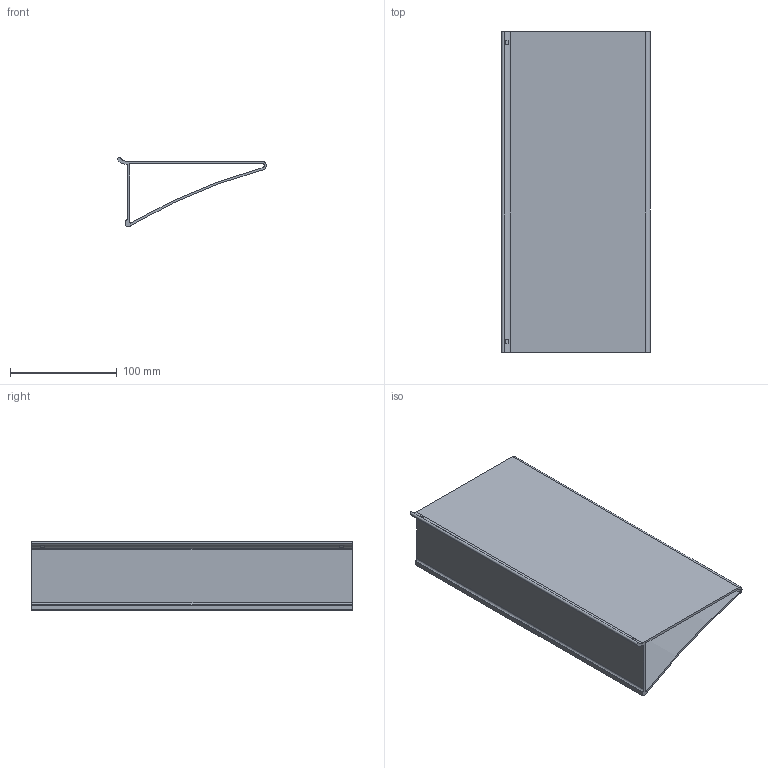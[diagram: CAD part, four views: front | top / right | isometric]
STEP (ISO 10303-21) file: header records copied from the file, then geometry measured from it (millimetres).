
FILE_DESCRIPTION(/* description */ ('Unknown'),/* implementation_level */ '2;1');
FILE_NAME(/* name */ '032 087 05 Alu półka L=300',/* time_stamp */ '2023-04-18T07:55:15+02:00',/* author */ ('Unknown'),/* organization */ ('Unknown'),/* preprocessor_version */ 'ST-DEVELOPER v18.102',/* originating_system */ 'Solid Edge',/* authorisation */ 'Unknown');
FILE_SCHEMA (('AUTOMOTIVE_DESIGN {1 0 10303 214 3 1 1}'));
Length unit declared in the file: millimetre
Products named in the file (3): 032 087 05 Alu pó³ka L=300; 032 087 05-01; Wa³ek silikon
Assembly tree (3 placements, depth 2):
  032 087 05 Alu pó³ka L=300
    032 087 05-01
    Wa³ek silikon  x2
Bounding box: 139 x 300 x 64.46 mm (x, y, z)
Volume: 217823.5 mm3; surface area: 204777.5 mm2
Topology: 3 solids, 3 shells, 37 faces, 93 edges, 62 vertices
Faces by surface type: plane 21, cylinder 16
Entity records: 1334 total; most frequent: DIRECTION 199, CARTESIAN_POINT 182, ORIENTED_EDGE 174, EDGE_CURVE 87, AXIS2_PLACEMENT_3D 75, VERTEX_POINT 58, LINE 49, VECTOR 49
